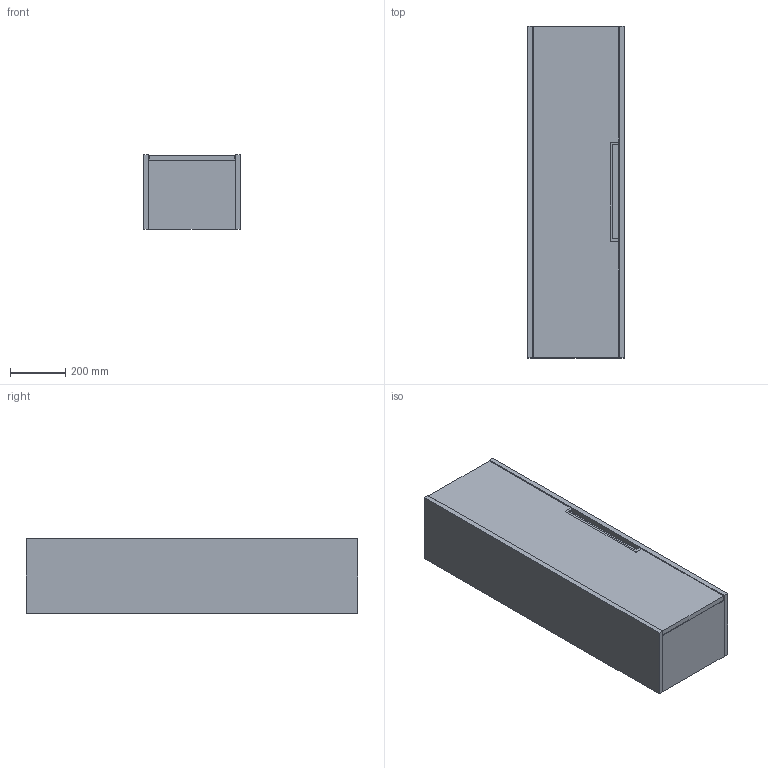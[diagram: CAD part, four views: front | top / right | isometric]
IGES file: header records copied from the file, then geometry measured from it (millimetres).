
Global section: file name: 3D Dosyası,; native system: Autodesk Inventor 2024; preprocessor: unknown; author: pc19; date: 20240826.104704; units: inch
Bounding box: 350 x 1200 x 270 mm (x, y, z)
Volume: 26238486 mm3; surface area: 3892813.9 mm2
Topology: 10 solids, 10 shells, 256 faces, 648 edges, 480 vertices
Faces by surface type: bspline 256
